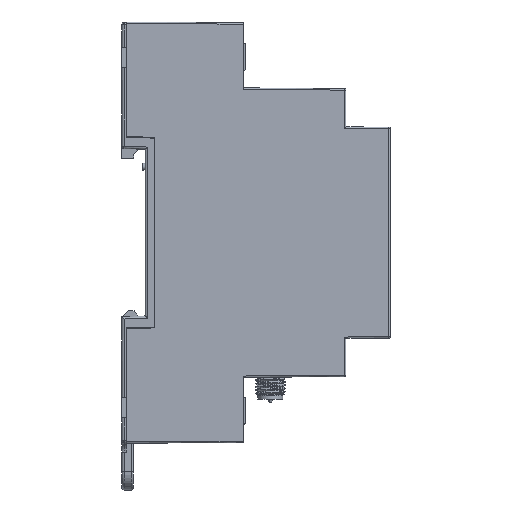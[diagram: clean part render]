
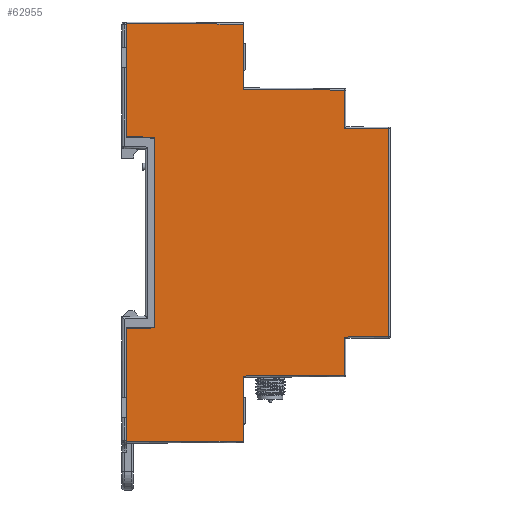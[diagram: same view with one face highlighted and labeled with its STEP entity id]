
A CAD part, left-side view. The second image highlights one B-rep face of the part: STEP entity #62955.
In plain terms, the highlighted planar face has unit normal (-1, -0.009, 0) as drawn and (0, 1, 0.009) by its records, which use the part's own axes.
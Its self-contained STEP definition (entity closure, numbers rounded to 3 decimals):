
#1390=PLANE('',#66715);
#4503=LINE('',#90597,#12148);
#4513=LINE('',#90633,#12158);
#4517=LINE('',#90668,#12162);
#4520=LINE('',#90688,#12165);
#4523=LINE('',#90697,#12168);
#4529=LINE('',#90713,#12174);
#4536=LINE('',#90727,#12181);
#4542=LINE('',#90743,#12187);
#4552=LINE('',#90765,#12197);
#4553=LINE('',#90767,#12198);
#4554=LINE('',#90769,#12199);
#4555=LINE('',#90771,#12200);
#4556=LINE('',#90773,#12201);
#4557=LINE('',#90775,#12202);
#4558=LINE('',#90776,#12203);
#4559=LINE('',#90777,#12204);
#12148=VECTOR('',#72539,10.);
#12158=VECTOR('',#72571,10.);
#12162=VECTOR('',#72613,10.);
#12165=VECTOR('',#72636,10.);
#12168=VECTOR('',#72645,10.);
#12174=VECTOR('',#72661,10.);
#12181=VECTOR('',#72680,10.);
#12187=VECTOR('',#72698,10.);
#12197=VECTOR('',#72718,10.);
#12198=VECTOR('',#72719,10.);
#12199=VECTOR('',#72720,10.);
#12200=VECTOR('',#72721,10.);
#12201=VECTOR('',#72722,10.);
#12202=VECTOR('',#72723,10.);
#12203=VECTOR('',#72724,10.);
#12204=VECTOR('',#72725,10.);
#20292=FACE_OUTER_BOUND('',#23891,.T.);
#23891=EDGE_LOOP('',(#45573,#45574,#45575,#45576,#45577,#45578,#45579,#45580,
#45581,#45582,#45583,#45584,#45585,#45586,#45587,#45588));
#29354=VERTEX_POINT('',#90594);
#29355=VERTEX_POINT('',#90596);
#29364=VERTEX_POINT('',#90617);
#29370=VERTEX_POINT('',#90632);
#29374=VERTEX_POINT('',#90643);
#29381=VERTEX_POINT('',#90658);
#29387=VERTEX_POINT('',#90678);
#29389=VERTEX_POINT('',#90687);
#29391=VERTEX_POINT('',#90693);
#29402=VERTEX_POINT('',#90741);
#29409=VERTEX_POINT('',#90764);
#29410=VERTEX_POINT('',#90766);
#29411=VERTEX_POINT('',#90768);
#29412=VERTEX_POINT('',#90770);
#29413=VERTEX_POINT('',#90772);
#29414=VERTEX_POINT('',#90774);
#35579=EDGE_CURVE('',#29355,#29354,#4503,.T.);
#35596=EDGE_CURVE('',#29364,#29370,#4513,.T.);
#35613=EDGE_CURVE('',#29374,#29381,#4517,.T.);
#35622=EDGE_CURVE('',#29389,#29387,#4520,.T.);
#35627=EDGE_CURVE('',#29387,#29391,#4523,.T.);
#35635=EDGE_CURVE('',#29381,#29389,#4529,.T.);
#35644=EDGE_CURVE('',#29370,#29374,#4536,.T.);
#35653=EDGE_CURVE('',#29402,#29364,#4542,.T.);
#35664=EDGE_CURVE('',#29391,#29409,#4552,.T.);
#35665=EDGE_CURVE('',#29410,#29402,#4553,.T.);
#35666=EDGE_CURVE('',#29411,#29410,#4554,.T.);
#35667=EDGE_CURVE('',#29411,#29412,#4555,.T.);
#35668=EDGE_CURVE('',#29412,#29413,#4556,.T.);
#35669=EDGE_CURVE('',#29413,#29414,#4557,.T.);
#35670=EDGE_CURVE('',#29414,#29355,#4558,.T.);
#35671=EDGE_CURVE('',#29409,#29354,#4559,.T.);
#45573=ORIENTED_EDGE('',*,*,#35664,.F.);
#45574=ORIENTED_EDGE('',*,*,#35627,.F.);
#45575=ORIENTED_EDGE('',*,*,#35622,.F.);
#45576=ORIENTED_EDGE('',*,*,#35635,.F.);
#45577=ORIENTED_EDGE('',*,*,#35613,.F.);
#45578=ORIENTED_EDGE('',*,*,#35644,.F.);
#45579=ORIENTED_EDGE('',*,*,#35596,.F.);
#45580=ORIENTED_EDGE('',*,*,#35653,.F.);
#45581=ORIENTED_EDGE('',*,*,#35665,.F.);
#45582=ORIENTED_EDGE('',*,*,#35666,.F.);
#45583=ORIENTED_EDGE('',*,*,#35667,.T.);
#45584=ORIENTED_EDGE('',*,*,#35668,.T.);
#45585=ORIENTED_EDGE('',*,*,#35669,.T.);
#45586=ORIENTED_EDGE('',*,*,#35670,.T.);
#45587=ORIENTED_EDGE('',*,*,#35579,.T.);
#45588=ORIENTED_EDGE('',*,*,#35671,.F.);
#62955=ADVANCED_FACE('',(#20292),#1390,.F.);
#66715=AXIS2_PLACEMENT_3D('',#90763,#72716,#72717);
#72539=DIRECTION('',(-1.,0.,0.));
#72571=DIRECTION('',(-1.,0.,0.));
#72613=DIRECTION('',(-1.,0.,0.));
#72636=DIRECTION('',(-1.,0.,0.));
#72645=DIRECTION('',(-0.009,0.009,-1.));
#72661=DIRECTION('',(-0.008,0.009,-1.));
#72680=DIRECTION('',(-0.008,-0.009,1.));
#72698=DIRECTION('',(-0.009,-0.009,1.));
#72716=DIRECTION('center_axis',(0.,-1.,
-0.009));
#72717=DIRECTION('ref_axis',(0.,0.009,-1.));
#72718=DIRECTION('',(-1.,0.,0.));
#72719=DIRECTION('',(-1.,0.,0.));
#72720=DIRECTION('',(-0.007,-0.009,1.));
#72721=DIRECTION('',(-1.,0.,0.));
#72722=DIRECTION('',(-0.035,-0.009,0.999));
#72723=DIRECTION('',(-1.,0.,0.));
#72724=DIRECTION('',(-0.035,0.009,-0.999));
#72725=DIRECTION('',(-0.007,0.009,-1.));
#90594=CARTESIAN_POINT('',(-44.8,9.05,0.));
#90596=CARTESIAN_POINT('',(-20.6,9.05,0.));
#90597=CARTESIAN_POINT('',(45.1,9.05,0.));
#90617=CARTESIAN_POINT('',(30.513,8.645,46.703));
#90632=CARTESIAN_POINT('',(22.353,8.645,46.703));
#90633=CARTESIAN_POINT('',(22.467,8.645,46.703));
#90643=CARTESIAN_POINT('',(22.273,8.563,56.203));
#90658=CARTESIAN_POINT('',(-22.273,8.563,56.203));
#90668=CARTESIAN_POINT('',(22.467,8.563,56.203));
#90678=CARTESIAN_POINT('',(-30.513,8.645,46.703));
#90687=CARTESIAN_POINT('',(-22.353,8.645,46.703));
#90688=CARTESIAN_POINT('',(22.467,8.645,46.703));
#90693=CARTESIAN_POINT('',(-30.7,8.833,25.));
#90697=CARTESIAN_POINT('',(-30.697,8.83,25.325));
#90713=CARTESIAN_POINT('',(-22.44,8.735,36.283));
#90727=CARTESIAN_POINT('',(22.443,8.738,35.979));
#90741=CARTESIAN_POINT('',(30.7,8.833,25.));
#90743=CARTESIAN_POINT('',(30.7,8.833,25.014));
#90763=CARTESIAN_POINT('Origin',(44.935,8.833,25.));
#90764=CARTESIAN_POINT('',(-44.635,8.833,25.));
#90765=CARTESIAN_POINT('',(44.935,8.833,25.));
#90766=CARTESIAN_POINT('',(44.635,8.833,25.));
#90767=CARTESIAN_POINT('',(44.935,8.833,25.));
#90768=CARTESIAN_POINT('',(44.8,9.05,0.));
#90769=CARTESIAN_POINT('',(44.635,8.833,25.075));
#90770=CARTESIAN_POINT('',(20.6,9.05,0.));
#90771=CARTESIAN_POINT('',(45.1,9.05,0.));
#90772=CARTESIAN_POINT('',(20.39,8.998,6.));
#90773=CARTESIAN_POINT('',(20.072,8.919,15.098));
#90774=CARTESIAN_POINT('',(-20.39,8.998,6.));
#90775=CARTESIAN_POINT('',(12.272,8.998,6.));
#90776=CARTESIAN_POINT('',(-20.122,8.931,13.669));
#90777=CARTESIAN_POINT('',(-44.633,8.831,25.295));
